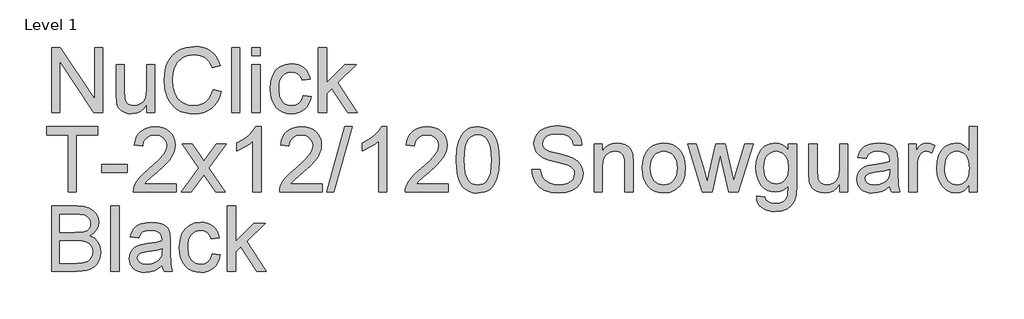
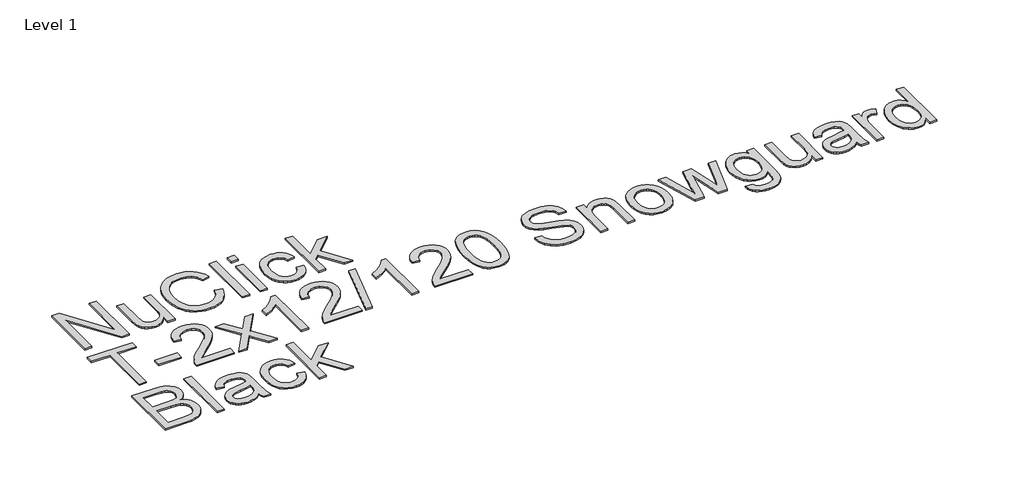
# One storey, part 11 of 13: 1 proxy.
"""IFC4 building model written with IfcOpenShell, lengths in millimetres."""

from ifc_helpers import new_model, si_unit, frame, origin, place, context, project, spatial, polyline, outline, extrude, element, save

model = new_model("IFC4")

# Units and contexts
model_context = context("Model", 3, world=origin())
ifc_project = project(units=[si_unit("LENGTHUNIT", "METRE", prefix="MILLI")], contexts=[model_context])

# Site, building, storey
site = spatial("IfcSite", under=ifc_project)
building = spatial("IfcBuilding", under=site)
storey = spatial("IfcBuildingStorey", under=building, Name="Level 1", Elevation=4000.0)

# Proxy
placement = place(None, origin())
element("IfcBuildingElementProxy", 1, Name="Elysium 400mm Arial", ObjectType="Elysium 400mm Arial", at=placement, inside=storey, context=model_context, shape_type="SweptSolid", body=[
    extrude(outline(polyline([(56107.147161, -9059.2083157), (56107.147161, -8657.3830752), (56160.9069832, -8657.3830752), (56370.8449751, -8975.7236283), (56370.8449751, -8657.3830752), (56421.0731302, -8657.3830752), (56421.0731302, -9059.2083157), (56367.313308, -9059.2083157), (56157.3753161, -8740.7696607), (56157.3753161, -9059.2083157), (56107.147161, -9059.2083157)])), frame((0.0, 0.0, 4000.0), z_axis=(0.0, 0.0, 1.0), x_axis=(1.0, 0.0, 0.0)), (0.0, 0.0, 1.0), 10.0),
    extrude(outline(polyline([(56691.0494637, -9059.2083157), (56691.0494637, -9008.4896513), (56672.8760932, -9033.4259193), (56651.7106157, -9051.2375392), (56627.5530314, -9061.9245111), (56600.4033401, -9065.4868351), (56575.9391875, -9062.9852376), (56553.167292, -9055.4804449), (56534.0619537, -9044.1987303), (56520.5974726, -9030.3663673), (56511.5353128, -9013.5664229), (56505.6369382, -8993.3819641), (56502.6938822, -8946.6854762), (56502.6938822, -8764.1179047), (56552.9220373, -8764.1179047), (56552.9220373, -8923.0429266), (56555.9631951, -8974.2521003), (56563.2840468, -8991.3340876), (56575.8288229, -9004.3203221), (56592.7636574, -9012.5240906), (56613.2546845, -9015.2586801), (56634.922934, -9012.4627769), (56655.1932319, -9004.0750674), (56671.9073373, -8990.8681038), (56682.9070089, -8973.6144382), (56689.01385, -8949.9841514), (56691.0494637, -8917.647324), (56691.0494637, -8764.1179047), (56741.2776188, -8764.1179047), (56741.2776188, -9059.2083157), (56691.0494637, -9059.2083157)])), frame((0.0, 0.0, 4000.0), z_axis=(0.0, 0.0, 1.0), x_axis=(1.0, 0.0, 0.0)), (0.0, 0.0, 1.0), 10.0),
    extrude(outline(polyline([(57099.1532237, -8916.3719998), (57149.3813788, -8929.321446), (57139.4424336, -8960.5576931), (57126.2048131, -8987.8514714), (57109.6685174, -9011.2027811), (57089.8335465, -9030.611622), (57067.1474901, -9045.8695277), (57042.0579381, -9056.7680318), (57014.5648903, -9063.3071343), (56984.6683468, -9065.4868351), (56954.039105, -9063.8374975), (56926.4081015, -9058.8894847), (56901.7753363, -9050.6427966), (56880.1408093, -9039.0974333), (56861.2071492, -9024.4250731), (56844.6769849, -9006.7973942), (56830.5503163, -8986.2143965), (56818.8271434, -8962.6760802), (56803.0450058, -8910.8047189), (56797.7842933, -8855.2545376), (56803.7317189, -8796.6631985), (56811.1660009, -8770.3657672), (56821.5739956, -8746.0671615), (56834.7227113, -8724.1689857), (56850.3791559, -8705.0728445), (56868.5433294, -8688.7787378), (56889.2152318, -8675.2866656), (56911.6928217, -8664.7069925), (56935.2740576, -8657.1500832), (56985.7474673, -8651.1045558), (57014.4759855, -8653.0604617), (57040.819402, -8658.9281795), (57064.777717, -8668.7077092), (57086.3509303, -8682.3990508), (57105.1834228, -8699.6404537), (57120.9195751, -8720.0701671), (57133.5593873, -8743.6881912), (57143.1028594, -8770.4945259), (57092.8747043, -8782.4629535), (57075.4616232, -8745.8341695), (57051.6719209, -8720.7078293), (57021.2112917, -8706.1764904), (56983.78543, -8701.3327108), (56940.6451347, -8706.703788), (56921.9628608, -8713.4176344), (56905.2058359, -8722.8170194), (56878.313662, -8747.9801478), (56860.8147418, -8780.5009162), (56851.2130217, -8817.2645903), (56848.0124484, -8855.1564358), (56851.8016329, -8901.5586181), (56863.1691866, -8941.682281), (56882.544305, -8973.9945829), (56910.3561838, -8996.9626822), (56943.6985553, -9010.6846806), (56979.6651517, -9015.2586801), (57001.5020138, -9013.7013129), (57021.5914364, -9009.0292116), (57039.9334196, -9001.242376), (57056.5279632, -8990.3408063), (57070.9826599, -8976.3735532), (57082.9051023, -8959.3896677), (57092.2952902, -8939.3891499), (57099.1532237, -8916.3719998)])), frame((0.0, 0.0, 4000.0), z_axis=(0.0, 0.0, 1.0), x_axis=(1.0, 0.0, 0.0)), (0.0, 0.0, 1.0), 10.0),
    extrude(outline(polyline([(57212.1665726, -9059.2083157), (57212.1665726, -8657.3830752), (57262.3947277, -8657.3830752), (57262.3947277, -9059.2083157), (57212.1665726, -9059.2083157)])), frame((0.0, 0.0, 4000.0), z_axis=(0.0, 0.0, 1.0), x_axis=(1.0, 0.0, 0.0)), (0.0, 0.0, 1.0), 10.0),
    extrude(outline(polyline([(57337.7369603, -8707.6112302), (57337.7369603, -8657.3830752), (57387.9651154, -8657.3830752), (57387.9651154, -8707.6112302), (57337.7369603, -8707.6112302)])), frame((0.0, 0.0, 4000.0), z_axis=(0.0, 0.0, 1.0), x_axis=(1.0, 0.0, 0.0)), (0.0, 0.0, 1.0), 10.0),
    extrude(outline(polyline([(57337.7369603, -9059.2083157), (57337.7369603, -8764.1179047), (57387.9651154, -8764.1179047), (57387.9651154, -9059.2083157), (57337.7369603, -9059.2083157)])), frame((0.0, 0.0, 4000.0), z_axis=(0.0, 0.0, 1.0), x_axis=(1.0, 0.0, 0.0)), (0.0, 0.0, 1.0), 10.0),
    extrude(outline(polyline([(57651.6629296, -8952.4734862), (57701.8910846, -8958.7520056), (57696.428037, -8982.4528031), (57687.8870433, -9003.4251425), (57676.2681037, -9021.6690238), (57661.571218, -9037.184447), (57644.4156542, -9049.5667418), (57625.4206806, -9058.4112381), (57604.5862969, -9063.7179359), (57581.9125033, -9065.4868351), (57553.7419395, -9063.0189601), (57528.4837748, -9055.6153349), (57506.1380093, -9043.2759597), (57486.7046429, -9026.0008343), (57470.9746219, -9004.1149213), (57459.7388927, -8977.943183), (57452.9974551, -8947.4856195), (57450.7503093, -8912.7422307), (57454.5885447, -8868.0445683), (57466.1032512, -8829.3065942), (57485.4783696, -8798.0243619), (57512.897841, -8775.6939248), (57545.7006522, -8762.3030202), (57581.2257902, -8757.8393853), (57603.5102421, -8759.3722269), (57623.6671097, -8763.9707519), (57641.6963932, -8771.6349601), (57657.5980924, -8782.3648516), (57671.1024273, -8795.9151718), (57681.9396178, -8812.0406659), (57690.1096637, -8830.741334), (57695.6125652, -8852.0171761), (57645.3844102, -8858.2956955), (57636.2731994, -8836.3821913), (57622.0852171, -8820.6736301), (57603.6052782, -8811.2190628), (57581.6181977, -8808.0675404), (57564.5515388, -8809.6187761), (57549.158743, -8814.2724834), (57535.4398102, -8822.0286621), (57523.3947406, -8832.8873123), (57513.5876197, -8847.0998201), (57506.5825334, -8864.9175714), (57502.3794816, -8886.3405662), (57500.9784643, -8911.3688046), (57506.4599061, -8958.4454373), (57513.3117082, -8976.3827502), (57522.9042312, -8990.5860609), (57534.7101776, -9001.3803318), (57548.2022498, -9009.0905253), (57563.3804478, -9013.7166414), (57580.2447716, -9015.2586801), (57606.2540286, -9011.4081818), (57627.5789216, -8999.8566872), (57643.0912791, -8980.3098905), (57651.6629296, -8952.4734862)])), frame((0.0, 0.0, 4000.0), z_axis=(0.0, 0.0, 1.0), x_axis=(1.0, 0.0, 0.0)), (0.0, 0.0, 1.0), 10.0),
    extrude(outline(polyline([(57745.8407203, -9059.2083157), (57745.8407203, -8657.3830752), (57796.0688754, -8657.3830752), (57796.0688754, -8873.3052809), (57908.6898168, -8764.1179047), (57978.1459375, -8764.1179047), (57864.15157, -8874.678707), (57984.4244569, -9059.2083157), (57925.7595414, -9059.2083157), (57828.1481854, -8909.602971), (57796.0688754, -8940.7012624), (57796.0688754, -9059.2083157), (57745.8407203, -9059.2083157)])), frame((0.0, 0.0, 4000.0), z_axis=(0.0, 0.0, 1.0), x_axis=(1.0, 0.0, 0.0)), (0.0, 0.0, 1.0), 10.0),
    extrude(outline(polyline([(56207.6034712, -9547.1075871), (56207.6034712, -9195.5105016), (56075.7545641, -9195.5105016), (56075.7545641, -9145.2823465), (56389.6805333, -9145.2823465), (56389.6805333, -9195.5105016), (56257.8316262, -9195.5105016), (56257.8316262, -9547.1075871), (56207.6034712, -9547.1075871)])), frame((0.0, 0.0, 4000.0), z_axis=(0.0, 0.0, 1.0), x_axis=(1.0, 0.0, 0.0)), (0.0, 0.0, 1.0), 10.0),
    extrude(outline(polyline([(56414.7946108, -9427.8157188), (56414.7946108, -9377.5875638), (56571.7575954, -9377.5875638), (56571.7575954, -9427.8157188), (56414.7946108, -9427.8157188)])), frame((0.0, 0.0, 4000.0), z_axis=(0.0, 0.0, 1.0), x_axis=(1.0, 0.0, 0.0)), (0.0, 0.0, 1.0), 10.0),
    extrude(outline(polyline([(56873.1265259, -9496.8794321), (56873.1265259, -9547.1075871), (56609.4287117, -9547.1075871), (56610.5323577, -9529.4247259), (56614.8243143, -9512.4776287), (56627.2096748, -9485.4137765), (56645.3339945, -9459.1592648), (56671.551718, -9431.6784798), (56708.2172902, -9400.9358077), (56762.4185708, -9352.7923173), (56794.9393392, -9317.2549165), (56811.1997234, -9288.4129681), (56816.6198514, -9260.3558346), (56811.5062917, -9235.2049689), (56796.1656125, -9214.2970088), (56772.5843766, -9200.2071284), (56742.7491468, -9195.5105016), (56711.4178635, -9200.0967638), (56687.0763382, -9213.8555504), (56671.367777, -9235.7077409), (56665.9353862, -9264.5742148), (56615.7072311, -9258.2956955), (56620.0267789, -9232.3661462), (56627.8841252, -9209.7107466), (56639.27927, -9190.3294968), (56654.2122133, -9174.2223968), (56672.3395986, -9161.5611248), (56693.3180694, -9152.5173591), (56717.1476256, -9147.0910997), (56743.8282673, -9145.2823465), (56770.7480323, -9147.2934348), (56794.7063473, -9153.3266995), (56815.7032121, -9163.3821407), (56833.7386269, -9177.4597584), (56848.2239805, -9194.5172202), (56858.5706616, -9213.5121939), (56864.7786703, -9234.4446794), (56866.8480065, -9257.3146768), (56864.6161891, -9281.3373711), (56857.9207368, -9304.9431324), (56846.0381483, -9328.953564), (56828.2449225, -9354.1902689), (56799.8812207, -9384.3198043), (56756.2872042, -9423.0087274), (56698.5052055, -9471.3238961), (56675.8436746, -9496.8794321), (56873.1265259, -9496.8794321)])), frame((0.0, 0.0, 4000.0), z_axis=(0.0, 0.0, 1.0), x_axis=(1.0, 0.0, 0.0)), (0.0, 0.0, 1.0), 10.0),
    extrude(outline(polyline([(56904.5191228, -9547.1075871), (57011.8425635, -9398.7775667), (56910.7976422, -9252.0171761), (56971.2283913, -9252.0171761), (57019.9850184, -9322.6505191), (57042.7446511, -9356.0051534), (57062.4631261, -9328.7328348), (57117.9887819, -9252.0171761), (57178.419531, -9252.0171761), (57072.2733126, -9398.7775667), (57174.4954563, -9547.1075871), (57114.0647073, -9547.1075871), (57052.5548377, -9457.9329915), (57041.2731232, -9441.6480818), (56964.9498719, -9547.1075871), (56904.5191228, -9547.1075871)])), frame((0.0, 0.0, 4000.0), z_axis=(0.0, 0.0, 1.0), x_axis=(1.0, 0.0, 0.0)), (0.0, 0.0, 1.0), 10.0),
    extrude(outline(polyline([(57394.2436348, -9547.1075871), (57344.0154797, -9547.1075871), (57344.0154797, -9233.9664328), (57323.046206, -9250.9257928), (57296.436075, -9267.8606273), (57243.5591696, -9293.2199595), (57243.5591696, -9245.7386567), (57283.0083822, -9224.2788736), (57317.1846195, -9198.7478632), (57344.1258443, -9171.5981719), (57361.8700192, -9145.2823465), (57394.2436348, -9145.2823465), (57394.2436348, -9547.1075871)])), frame((0.0, 0.0, 4000.0), z_axis=(0.0, 0.0, 1.0), x_axis=(1.0, 0.0, 0.0)), (0.0, 0.0, 1.0), 10.0),
    extrude(outline(polyline([(57770.9547979, -9496.8794321), (57770.9547979, -9547.1075871), (57507.2569837, -9547.1075871), (57508.3606297, -9529.4247259), (57512.6525863, -9512.4776287), (57525.0379468, -9485.4137765), (57543.1622664, -9459.1592648), (57569.37999, -9431.6784798), (57606.0455621, -9400.9358077), (57660.2468428, -9352.7923173), (57692.7676111, -9317.2549165), (57709.0279953, -9288.4129681), (57714.4481234, -9260.3558346), (57709.3345637, -9235.2049689), (57693.9938845, -9214.2970088), (57670.4126486, -9200.2071284), (57640.5774188, -9195.5105016), (57609.2461355, -9200.0967638), (57584.9046102, -9213.8555504), (57569.196049, -9235.7077409), (57563.7636582, -9264.5742148), (57513.5355031, -9258.2956955), (57517.8550509, -9232.3661462), (57525.7123971, -9209.7107466), (57537.1075419, -9190.3294968), (57552.0404853, -9174.2223968), (57570.1678706, -9161.5611248), (57591.1463413, -9152.5173591), (57614.9758976, -9147.0910997), (57641.6565393, -9145.2823465), (57668.5763043, -9147.2934348), (57692.5346192, -9153.3266995), (57713.5314841, -9163.3821407), (57731.5668989, -9177.4597584), (57746.0522525, -9194.5172202), (57756.3989336, -9213.5121939), (57762.6069422, -9234.4446794), (57764.6762785, -9257.3146768), (57762.444461, -9281.3373711), (57755.7490087, -9304.9431324), (57743.8664203, -9328.953564), (57726.0731944, -9354.1902689), (57697.7094926, -9384.3198043), (57654.1154762, -9423.0087274), (57596.3334775, -9471.3238961), (57573.6719466, -9496.8794321), (57770.9547979, -9496.8794321)])), frame((0.0, 0.0, 4000.0), z_axis=(0.0, 0.0, 1.0), x_axis=(1.0, 0.0, 0.0)), (0.0, 0.0, 1.0), 10.0),
    extrude(outline(polyline([(57796.0688754, -9547.1075871), (57909.0822243, -9145.2823465), (57954.4052861, -9145.2823465), (57841.3919372, -9547.1075871), (57796.0688754, -9547.1075871)])), frame((0.0, 0.0, 4000.0), z_axis=(0.0, 0.0, 1.0), x_axis=(1.0, 0.0, 0.0)), (0.0, 0.0, 1.0), 10.0),
    extrude(outline(polyline([(58166.5015191, -9547.1075871), (58116.273364, -9547.1075871), (58116.273364, -9233.9664328), (58095.3040903, -9250.9257928), (58068.6939593, -9267.8606273), (58015.8170538, -9293.2199595), (58015.8170538, -9245.7386567), (58055.2662665, -9224.2788736), (58089.4425038, -9198.7478632), (58116.3837286, -9171.5981719), (58134.1279035, -9145.2823465), (58166.5015191, -9145.2823465), (58166.5015191, -9547.1075871)])), frame((0.0, 0.0, 4000.0), z_axis=(0.0, 0.0, 1.0), x_axis=(1.0, 0.0, 0.0)), (0.0, 0.0, 1.0), 10.0),
    extrude(outline(polyline([(58543.2126821, -9496.8794321), (58543.2126821, -9547.1075871), (58279.514868, -9547.1075871), (58280.618514, -9529.4247259), (58284.9104706, -9512.4776287), (58297.2958311, -9485.4137765), (58315.4201507, -9459.1592648), (58341.6378742, -9431.6784798), (58378.3034464, -9400.9358077), (58432.504727, -9352.7923173), (58465.0254954, -9317.2549165), (58481.2858796, -9288.4129681), (58486.7060077, -9260.3558346), (58481.5924479, -9235.2049689), (58466.2517687, -9214.2970088), (58442.6705328, -9200.2071284), (58412.835303, -9195.5105016), (58381.5040198, -9200.0967638), (58357.1624944, -9213.8555504), (58341.4539332, -9235.7077409), (58336.0215424, -9264.5742148), (58285.7933874, -9258.2956955), (58290.1129351, -9232.3661462), (58297.9702814, -9209.7107466), (58309.3654262, -9190.3294968), (58324.2983695, -9174.2223968), (58342.4257548, -9161.5611248), (58363.4042256, -9152.5173591), (58387.2337819, -9147.0910997), (58413.9144236, -9145.2823465), (58440.8341886, -9147.2934348), (58464.7925035, -9153.3266995), (58485.7893684, -9163.3821407), (58503.8247832, -9177.4597584), (58518.3101367, -9194.5172202), (58528.6568179, -9213.5121939), (58534.8648265, -9234.4446794), (58536.9341627, -9257.3146768), (58534.7023453, -9281.3373711), (58528.006893, -9304.9431324), (58516.1243046, -9328.953564), (58498.3310787, -9354.1902689), (58469.9673769, -9384.3198043), (58426.3733605, -9423.0087274), (58368.5913618, -9471.3238961), (58345.9298308, -9496.8794321), (58543.2126821, -9496.8794321)])), frame((0.0, 0.0, 4000.0), z_axis=(0.0, 0.0, 1.0), x_axis=(1.0, 0.0, 0.0)), (0.0, 0.0, 1.0), 10.0),
    extrude(outline(polyline([(58593.4408372, -9349.4323284), (58597.1319199, -9285.1142929), (58608.2051679, -9233.81928), (58626.5502168, -9194.7624749), (58638.4082797, -9179.5290946), (58652.0567018, -9167.1590625), (58667.5414681, -9157.5879993), (58684.9085639, -9150.7515255), (58725.2897443, -9145.2823465), (58756.2408828, -9148.5197081), (58783.9546598, -9158.2317928), (58807.1312255, -9174.0384558), (58824.4707302, -9195.5595525), (58837.5673292, -9222.6111419), (58848.0151779, -9255.009283), (58854.857783, -9296.1507528), (58857.1386513, -9349.4323284), (58853.4843569, -9413.3824819), (58842.5214734, -9464.5548674), (58824.2867892, -9503.6484608), (58812.4563173, -9518.9278263), (58798.8170924, -9531.3622377), (58783.313932, -9540.9976803), (58765.8916538, -9547.8801393), (58725.2897443, -9553.3861065), (58697.6250182, -9550.9948735), (58673.0995519, -9543.8211746), (58651.7133452, -9531.8650098), (58633.4663983, -9515.126379), (58615.9552153, -9484.8680849), (58603.4472275, -9447.1663118), (58595.9424348, -9402.0210596), (58593.4408372, -9349.4323284)]), holes=[polyline([(58643.6689923, -9349.3342265), (58645.1405203, -9392.9987537), (58649.5551042, -9428.3430164), (58656.9127441, -9455.3670146), (58667.21344, -9474.0707484), (58679.6723769, -9486.7963997), (58693.5047399, -9495.8861507), (58708.710529, -9501.3400012), (58725.2897443, -9503.1579514), (58741.8689595, -9501.3338699), (58757.0747487, -9495.8616252), (58770.9071117, -9486.7412174), (58783.3660486, -9473.9726465), (58793.6667444, -9455.2382559), (58801.0243843, -9428.220389), (58805.4389683, -9392.9190459), (58806.9104963, -9349.3342265), (58805.4880192, -9306.825462), (58801.2205881, -9272.103533), (58794.1082028, -9245.1684396), (58784.1508635, -9226.0201817), (58771.9003931, -9212.6721967), (58757.9086145, -9203.1379216), (58742.1755279, -9197.4173566), (58724.7011331, -9195.5105016), (58708.207757, -9197.1904961), (58693.2594852, -9202.2304794), (58679.8563179, -9210.6304516), (58667.9982549, -9222.3904127), (58657.3542025, -9243.2370591), (58649.7513079, -9271.3432435), (58645.1895712, -9306.708966), (58643.6689923, -9349.3342265)])]), frame((0.0, 0.0, 4000.0), z_axis=(0.0, 0.0, 1.0), x_axis=(1.0, 0.0, 0.0)), (0.0, 0.0, 1.0), 10.0),
    extrude(outline(polyline([(59058.0512716, -9408.9801607), (59108.2794267, -9408.9801607), (59114.0429113, -9436.8533532), (59124.4662345, -9459.2573667), (59140.7266187, -9477.0383298), (59164.0012863, -9491.0423711), (59192.4508272, -9500.1290563), (59224.2358316, -9503.1579514), (59252.2193887, -9500.8648203), (59276.7203296, -9493.985427), (59296.5736946, -9483.09612), (59310.6145241, -9468.7732476), (59318.9654454, -9452.3289224), (59321.7490858, -9435.0752569), (59319.6644211, -9418.2630497), (59313.4104272, -9403.7317109), (59300.7062357, -9391.3340876), (59279.2709781, -9380.9230272), (59206.1360374, -9361.7441125), (59158.1274371, -9349.0521837), (59127.4092905, -9336.9733915), (59102.4055775, -9320.0753452), (59084.6859281, -9299.5965808), (59074.1277148, -9275.9785567), (59070.6083104, -9249.6627313), (59074.9615807, -9220.2444344), (59088.0213915, -9192.8127003), (59109.4443864, -9169.5625582), (59138.8872087, -9152.6890374), (59174.2284057, -9142.4251297), (59213.3465245, -9139.0038271), (59255.7265304, -9142.5845452), (59292.8090355, -9153.3266995), (59323.2696647, -9171.0095607), (59345.7840428, -9195.4123997), (59360.0333388, -9225.0146376), (59365.6987215, -9258.2956955), (59315.4705664, -9258.2956955), (59306.2489911, -9228.3255756), (59297.885807, -9216.4675126), (59287.0210254, -9206.6941143), (59256.9773292, -9193.5975152), (59215.3085619, -9189.2319822), (59172.6587759, -9193.5484643), (59156.3554721, -9198.9440669), (59143.3998945, -9206.4979105), (59126.4773227, -9225.5541979), (59120.8364655, -9248.1912033), (59124.8341165, -9267.4927453), (59136.8270695, -9283.0173655), (59165.1785086, -9296.8987795), (59218.840229, -9311.074499), (59274.218732, -9324.53898), (59307.720519, -9336.2866784), (59336.354001, -9354.5090999), (59356.3299933, -9376.9989526), (59368.065429, -9403.5109817), (59371.9772409, -9433.7999326), (59367.4768178, -9464.7633339), (59353.9755486, -9493.8873252), (59332.0252562, -9518.9523518), (59302.1777636, -9537.738859), (59266.2847436, -9549.4742946), (59226.1978689, -9553.3861065), (59176.9875207, -9549.1677263), (59136.483713, -9536.5125857), (59104.220462, -9515.3716337), (59079.7317839, -9485.6958194), (59064.01096, -9449.545282), (59058.0512716, -9408.9801607)])), frame((0.0, 0.0, 4000.0), z_axis=(0.0, 0.0, 1.0), x_axis=(1.0, 0.0, 0.0)), (0.0, 0.0, 1.0), 10.0),
    extrude(outline(polyline([(59441.0409541, -9547.1075871), (59441.0409541, -9252.0171761), (59491.2691092, -9252.0171761), (59491.2691092, -9293.2199595), (59508.7189785, -9272.4468895), (59529.6759895, -9257.6089824), (59554.1401421, -9248.7062381), (59582.1114365, -9245.7386567), (59606.8698948, -9248.1298897), (59629.5436884, -9255.3035886), (59648.452823, -9266.3645739), (59661.917304, -9280.4176661), (59671.0530402, -9297.426077), (59676.9759403, -9317.3530184), (59679.6246907, -9365.9134418), (59679.6246907, -9547.1075871), (59629.3965356, -9547.1075871), (59629.3965356, -9372.6824705), (59627.9495331, -9346.7100016), (59623.6085256, -9328.2423255), (59615.6009608, -9315.0108364), (59603.1542866, -9304.7469287), (59587.2004708, -9298.161841), (59568.671481, -9295.9668118), (59539.2531841, -9300.8964305), (59514.1758947, -9315.6852867), (59504.154176, -9327.7579475), (59496.9958056, -9344.257455), (59492.7007833, -9365.1838091), (59491.2691092, -9390.53701), (59491.2691092, -9547.1075871), (59441.0409541, -9547.1075871)])), frame((0.0, 0.0, 4000.0), z_axis=(0.0, 0.0, 1.0), x_axis=(1.0, 0.0, 0.0)), (0.0, 0.0, 1.0), 10.0),
    extrude(outline(polyline([(59736.1313652, -9399.5623816), (59738.8475606, -9361.3455737), (59746.9961467, -9328.4140037), (59760.5771237, -9300.7676718), (59779.5904915, -9278.4065779), (59798.732618, -9264.1143623), (59819.8613073, -9253.905637), (59842.9765593, -9247.7804018), (59868.0783741, -9245.7386567), (59895.7890854, -9248.2249258), (59920.8449149, -9255.6837333), (59943.2458628, -9268.115079), (59962.9919288, -9285.5189631), (59979.1082259, -9307.3067743), (59990.6198667, -9332.8899013), (59997.5268511, -9362.2683443), (59999.8291793, -9395.4421033), (59995.7579519, -9446.1852931), (59983.5442696, -9484.8129026), (59963.5437518, -9513.7406902), (59936.1120177, -9535.3844142), (59903.5299357, -9548.8856834), (59868.0783741, -9553.3861065), (59839.9629926, -9550.9090344), (59814.6741711, -9543.4778181), (59792.2119096, -9531.0924576), (59772.5762081, -9513.7529529), (59756.6315893, -9491.7536096), (59745.2425759, -9465.3887333), (59738.4091678, -9434.6583239), (59736.1313652, -9399.5623816)]), holes=[polyline([(59786.3595202, -9399.4642797), (59787.8126541, -9423.8272649), (59792.1720558, -9444.9222316), (59799.4377252, -9462.74918), (59809.6096623, -9477.3081099), (59821.9827601, -9488.6174156), (59835.8519113, -9496.6954911), (59851.217116, -9501.5423363), (59868.0783741, -9503.1579514), (59884.8537931, -9501.5331393), (59900.1576841, -9496.6587029), (59913.9900471, -9488.5346421), (59926.3508821, -9477.1609571), (59936.5228193, -9462.45794), (59943.7884887, -9444.3458831), (59948.1478903, -9422.8247864), (59949.6010242, -9397.8946499), (59948.1386933, -9374.3042169), (59943.7517005, -9353.7610732), (59936.4400458, -9336.2652186), (59926.2037293, -9321.8166533), (59913.796909, -9310.5073476), (59899.9737431, -9302.4292721), (59884.7342314, -9297.5824269), (59868.0783741, -9295.9668118), (59851.217116, -9297.5762955), (59835.8519113, -9302.4047467), (59821.9827601, -9310.4521653), (59809.6096623, -9321.7185514), (59799.4377252, -9336.2345618), (59792.1720558, -9354.0308533), (59787.8126541, -9375.107426), (59786.3595202, -9399.4642797)])]), frame((0.0, 0.0, 4000.0), z_axis=(0.0, 0.0, 1.0), x_axis=(1.0, 0.0, 0.0)), (0.0, 0.0, 1.0), 10.0),
    extrude(outline(polyline([(60105.2886846, -9547.1075871), (60015.5254778, -9252.0171761), (60067.7156701, -9252.0171761), (60118.6305383, -9424.1859498), (60133.8363274, -9485.6958194), (60146.2952643, -9426.4422927), (60186.8113347, -9252.0171761), (60246.6534726, -9252.0171761), (60286.9733393, -9425.9517834), (60298.0588501, -9479.6135037), (60313.9513522, -9423.0087274), (60364.9643222, -9252.0171761), (60417.3507184, -9252.0171761), (60326.9007985, -9547.1075871), (60266.1757438, -9547.1075871), (60227.6217107, -9374.0558966), (60216.4380981, -9320.0998706), (60166.7004523, -9547.1075871), (60105.2886846, -9547.1075871)])), frame((0.0, 0.0, 4000.0), z_axis=(0.0, 0.0, 1.0), x_axis=(1.0, 0.0, 0.0)), (0.0, 0.0, 1.0), 10.0),
    extrude(outline(polyline([(60439.3255362, -9572.2216647), (60489.5536913, -9578.5001841), (60495.0964467, -9594.1964825), (60505.8386009, -9604.9876877), (60526.9550275, -9613.3753972), (60554.595228, -9616.1713004), (60584.0748386, -9613.0075152), (60606.0006055, -9603.5161597), (60621.2063946, -9588.3103706), (60630.5260718, -9568.0032845), (60633.9596371, -9509.4364708), (60617.2455318, -9525.9175842), (60598.5939146, -9537.6898081), (60578.0047857, -9544.7531424), (60555.4781448, -9547.1075871), (60527.9391118, -9544.3668663), (60503.6926226, -9536.1447037), (60482.7386773, -9522.4410994), (60465.0772759, -9503.2560533), (60451.0640375, -9480.2389031), (60441.0545816, -9455.0389865), (60435.048908, -9427.6563033), (60433.0470168, -9398.0908536), (60436.6399976, -9357.537995), (60447.4189401, -9320.2470234), (60465.0036995, -9288.6459601), (60489.014131, -9265.162826), (60518.6286316, -9250.594699), (60553.0255982, -9245.7386567), (60576.5148636, -9248.4855089), (60597.8336252, -9256.7260656), (60616.981883, -9270.4603268), (60633.9596371, -9289.6882924), (60633.9596371, -9252.0171761), (60684.1877922, -9252.0171761), (60684.1877922, -9506.7877205), (60680.7542269, -9565.6120515), (60670.453531, -9604.3500256), (60652.7093561, -9630.0404516), (60626.9453537, -9649.7221383), (60593.7256096, -9662.2301262), (60553.6142094, -9666.3994554), (60529.0059696, -9664.9309931), (60506.8809333, -9660.5256062), (60487.2391004, -9653.1832948), (60470.080471, -9642.9040587), (60456.2205168, -9629.6756353), (60446.4747096, -9613.4857618), (60440.8430494, -9594.3344383), (60439.3255362, -9572.2216647)]), holes=[polyline([(60483.2751719, -9394.6572883), (60488.6339863, -9440.7283769), (60495.3325043, -9458.3652528), (60504.7104295, -9472.4030166), (60516.1117056, -9483.1114484), (60528.8802766, -9490.7603282), (60543.0161422, -9495.3496561), (60558.5193026, -9496.8794321), (60573.8691789, -9495.3588531), (60587.9375995, -9490.7971164), (60600.7245645, -9483.1942218), (60612.2300739, -9472.5501694), (60621.7367578, -9458.6503614), (60628.5272463, -9441.2801999), (60633.9596371, -9396.1288163), (60628.3678308, -9352.5838508), (60621.3780729, -9335.3823019), (60611.5924118, -9321.2280421), (60599.8385821, -9310.1762538), (60586.9443181, -9302.2821193), (60572.90962, -9297.5456387), (60557.7344877, -9295.9668118), (60542.8138071, -9297.5211132), (60529.0519548, -9302.1840175), (60505.0047351, -9320.8356346), (60495.4980512, -9334.7752966), (60488.7075627, -9351.7254595), (60483.2751719, -9394.6572883)])]), frame((0.0, 0.0, 4000.0), z_axis=(0.0, 0.0, 1.0), x_axis=(1.0, 0.0, 0.0)), (0.0, 0.0, 1.0), 10.0),
    extrude(outline(polyline([(60947.8856063, -9547.1075871), (60947.8856063, -9496.3889227), (60929.7122358, -9521.3251906), (60908.5467583, -9539.1368106), (60884.389174, -9549.8237825), (60857.2394827, -9553.3861065), (60832.77533, -9550.8845089), (60810.0034345, -9543.3797162), (60790.8980963, -9532.0980017), (60777.4336152, -9518.2656387), (60768.3714554, -9501.4656943), (60762.4730808, -9481.2812355), (60759.5300248, -9434.5847475), (60759.5300248, -9252.0171761), (60809.7581799, -9252.0171761), (60809.7581799, -9410.942198), (60812.7993377, -9462.1513717), (60820.1201894, -9479.233359), (60832.6649654, -9492.2195935), (60849.5998, -9500.4233619), (60870.0908271, -9503.1579514), (60891.7590766, -9500.3620483), (60912.0293745, -9491.9743388), (60928.7434799, -9478.7673752), (60939.7431515, -9461.5137096), (60945.8499926, -9437.8834228), (60947.8856063, -9405.5465954), (60947.8856063, -9252.0171761), (60998.1137614, -9252.0171761), (60998.1137614, -9547.1075871), (60947.8856063, -9547.1075871)])), frame((0.0, 0.0, 4000.0), z_axis=(0.0, 0.0, 1.0), x_axis=(1.0, 0.0, 0.0)), (0.0, 0.0, 1.0), 10.0),
    extrude(outline(polyline([(61255.5330562, -9509.4364708), (61231.5348873, -9530.0133371), (61206.82548, -9543.4778181), (61180.8407484, -9550.9090344), (61153.0166068, -9553.3861065), (61130.6524472, -9551.8961844), (61111.0412712, -9547.4264182), (61094.1830788, -9539.9768078), (61080.0778699, -9529.5473532), (61068.9402425, -9516.8002421), (61060.9847944, -9502.397662), (61056.2115255, -9486.3396129), (61054.6204359, -9468.6260948), (61057.0239316, -9447.8039739), (61064.2344187, -9428.8948393), (61075.3567177, -9412.7080316), (61089.495649, -9400.0528909), (61106.1116525, -9390.4879591), (61124.6651678, -9383.5717775), (61168.1242941, -9376.0179339), (61219.4806206, -9368.0716828), (61255.2387506, -9358.7520056), (61255.5330562, -9347.5683929), (61252.0749654, -9325.1521167), (61241.7006931, -9310.4858878), (61218.499602, -9299.5965808), (61186.1750373, -9295.9668118), (61156.2539684, -9298.3825702), (61135.3582711, -9305.6298455), (61121.1089751, -9319.0330129), (61111.1271103, -9339.9164474), (61060.8989553, -9333.6379281), (61069.6177585, -9306.1694058), (61082.6285184, -9284.5869954), (61101.1452455, -9268.0813565), (61126.3819504, -9255.8431488), (61157.2472498, -9248.2647797), (61192.6497605, -9245.7386567), (61226.6052686, -9247.9704741), (61253.5219679, -9254.6659264), (61273.8167913, -9264.7336304), (61287.9066717, -9277.0822027), (61297.2508744, -9292.3493055), (61303.3086646, -9311.1726009), (61305.7612112, -9355.1222366), (61305.7612112, -9417.6131248), (61308.3118597, -9504.8747341), (61318.31825, -9547.1075871), (61268.0900949, -9547.1075871), (61260.045742, -9529.6454551), (61255.5330562, -9509.4364708)]), holes=[polyline([(61255.5330562, -9408.9801607), (61221.7860145, -9417.3433447), (61174.5009154, -9424.3821535), (61131.2870437, -9432.5246084), (61120.0421173, -9438.0918892), (61111.7157215, -9445.7683602), (61106.5653736, -9454.9654101), (61104.8485909, -9465.0944277), (61108.5887246, -9480.0304367), (61119.8091254, -9492.2686444), (61138.2645388, -9500.4356247), (61163.7097102, -9503.1579514), (61190.6877232, -9500.1535818), (61214.5264764, -9491.1404729), (61233.8525439, -9477.8599329), (61247.2924995, -9462.0532698), (61253.2521878, -9445.7683602), (61255.2387506, -9423.2049312), (61255.5330562, -9408.9801607)])]), frame((0.0, 0.0, 4000.0), z_axis=(0.0, 0.0, 1.0), x_axis=(1.0, 0.0, 0.0)), (0.0, 0.0, 1.0), 10.0),
    extrude(outline(polyline([(61374.8249245, -9547.1075871), (61374.8249245, -9252.0171761), (61418.7745602, -9252.0171761), (61418.7745602, -9295.6725062), (61435.0104189, -9270.3622249), (61449.9709534, -9255.4507414), (61464.9805388, -9248.1666779), (61481.3635503, -9245.7386567), (61506.3795259, -9249.6136804), (61531.7879091, -9261.2387514), (61515.0124901, -9306.2675076), (61497.3541543, -9298.5419857), (61479.6958186, -9295.9668118), (61464.6984959, -9298.4438839), (61451.2953285, -9305.8751002), (61440.4673351, -9317.6963749), (61433.1955344, -9333.3436225), (61427.0886933, -9361.400756), (61425.0530795, -9392.008538), (61425.0530795, -9547.1075871), (61374.8249245, -9547.1075871)])), frame((0.0, 0.0, 4000.0), z_axis=(0.0, 0.0, 1.0), x_axis=(1.0, 0.0, 0.0)), (0.0, 0.0, 1.0), 10.0),
    extrude(outline(polyline([(61745.2575681, -9547.1075871), (61745.2575681, -9499.7243862), (61730.2295886, -9523.2013888), (61712.0255612, -9539.9706764), (61690.645486, -9550.032249), (61666.0893628, -9553.3861065), (61633.6176453, -9548.5300642), (61603.8927801, -9533.9619372), (61578.7296517, -9510.6995323), (61559.9431444, -9479.7606565), (61548.244497, -9442.3961086), (61544.3449478, -9399.8566872), (61547.9379287, -9357.8445633), (61558.7168711, -9319.9036669), (61576.6695125, -9288.1922389), (61601.78359, -9264.8685204), (61632.1583801, -9250.5211226), (61665.8931591, -9245.7386567), (61690.4676763, -9249.1599592), (61712.1972395, -9259.4238669), (61730.6158647, -9275.1569536), (61745.2575681, -9294.9857931), (61745.2575681, -9145.2823465), (61795.4857232, -9145.2823465), (61795.4857232, -9547.1075871), (61745.2575681, -9547.1075871)]), holes=[polyline([(61594.5731029, -9399.6604835), (61595.9894486, -9424.0173372), (61600.2384856, -9445.0939099), (61607.3202141, -9462.8902014), (61617.2346338, -9477.4062118), (61641.9317784, -9496.7200165), (61655.807061, -9501.5484677), (61670.7001505, -9503.1579514), (61685.6637506, -9501.6220441), (61699.4562597, -9497.0143221), (61723.528005, -9478.5834342), (61733.0346889, -9464.6744291), (61739.8251774, -9447.521931), (61745.2575681, -9403.4864562), (61739.7270755, -9355.3429658), (61732.8139597, -9336.8078446), (61723.1355975, -9321.9638061), (61711.4338844, -9310.5901211), (61698.4507156, -9302.4660603), (61684.1860913, -9297.5916239), (61668.6400113, -9295.9668118), (61653.4526163, -9297.5272446), (61639.5773337, -9302.2085429), (61627.0141635, -9310.0107069), (61615.7631058, -9320.9337365), (61606.4924796, -9335.216755), (61599.8706037, -9353.0988856), (61594.5731029, -9399.6604835)])]), frame((0.0, 0.0, 4000.0), z_axis=(0.0, 0.0, 1.0), x_axis=(1.0, 0.0, 0.0)), (0.0, 0.0, 1.0), 10.0),
    extrude(outline(polyline([(56107.147161, -10035.0068585), (56107.147161, -9633.1816179), (56260.4803766, -9633.1816179), (56302.651916, -9636.1369366), (56335.5773545, -9645.0028927), (56360.8140594, -9660.0002154), (56379.9193977, -9681.3496338), (56391.9491389, -9706.4637114), (56395.9590527, -9732.7550113), (56392.5868011, -9756.9493838), (56382.4700462, -9779.6967539), (56365.5352117, -9799.5991698), (56341.7087211, -9815.2586801), (56370.1705248, -9830.1211127), (56391.2011122, -9852.7335926), (56404.1873466, -9881.6000665), (56408.5160914, -9915.2244809), (56405.5607728, -9943.2448262), (56396.6948167, -9969.2295578), (56383.4633276, -9991.327003), (56367.4114099, -10007.685489), (56347.7542486, -10019.5312892), (56323.7070288, -10028.090677), (56294.4849357, -10033.2778131), (56259.3031542, -10035.0068585), (56107.147161, -10035.0068585)]), holes=[polyline([(56157.3753161, -9796.4231219), (56249.1005602, -9796.4231219), (56302.6641787, -9792.1066398), (56321.4138977, -9784.6631608), (56334.8906415, -9773.5163363), (56343.0208336, -9758.8378447), (56345.7308976, -9740.7993642), (56343.2047746, -9723.2881813), (56335.6264055, -9708.0333412), (56323.3391468, -9696.1262273), (56306.6863552, -9688.6582228), (56281.1308193, -9684.7218854), (56242.1353278, -9683.409773), (56157.3753161, -9683.409773), (56157.3753161, -9796.4231219)]), polyline([(56157.3753161, -9984.7787034), (56260.3822747, -9984.7787034), (56297.6609836, -9982.8166661), (56329.2007333, -9971.8783081), (56340.7767534, -9962.4482663), (56350.0964306, -9949.5601338), (56356.2400599, -9933.7902589), (56358.2879364, -9915.7149902), (56355.8844407, -9894.721191), (56348.6739536, -9876.6704478), (56336.0801266, -9862.5560419), (56317.5266113, -9853.3712548), (56291.2475741, -9848.3312714), (56255.4771815, -9846.651277), (56157.3753161, -9846.651277), (56157.3753161, -9984.7787034)])]), frame((0.0, 0.0, 4000.0), z_axis=(0.0, 0.0, 1.0), x_axis=(1.0, 0.0, 0.0)), (0.0, 0.0, 1.0), 10.0),
    extrude(outline(polyline([(56471.3012853, -10035.0068585), (56471.3012853, -9633.1816179), (56521.5294404, -9633.1816179), (56521.5294404, -10035.0068585), (56471.3012853, -10035.0068585)])), frame((0.0, 0.0, 4000.0), z_axis=(0.0, 0.0, 1.0), x_axis=(1.0, 0.0, 0.0)), (0.0, 0.0, 1.0), 10.0),
    extrude(outline(polyline([(56785.2272545, -9997.3357422), (56761.2290857, -10017.9126085), (56736.5196783, -10031.3770895), (56710.5349468, -10038.8083058), (56682.7108052, -10041.2853779), (56660.3466456, -10039.7954558), (56640.7354695, -10035.3256896), (56623.8772771, -10027.8760792), (56609.7720683, -10017.4466246), (56598.6344409, -10004.6995135), (56590.6789927, -9990.2969334), (56585.9057238, -9974.2388843), (56584.3146342, -9956.5253662), (56586.7181299, -9935.7032453), (56593.928617, -9916.7941107), (56605.050916, -9900.6073029), (56619.1898474, -9887.9521623), (56635.8058508, -9878.3872304), (56654.3593661, -9871.4710489), (56697.8184925, -9863.9172053), (56749.174819, -9855.9709542), (56784.9329489, -9846.651277), (56785.2272545, -9835.4676643), (56781.7691638, -9813.0513881), (56771.3948915, -9798.3851592), (56748.1938003, -9787.4958522), (56715.8692357, -9783.8660831), (56685.9481667, -9786.2818416), (56665.0524694, -9793.5291169), (56650.8031735, -9806.9322842), (56640.8213087, -9827.8157188), (56590.5931536, -9821.5371994), (56599.3119569, -9794.0686771), (56612.3227168, -9772.4862668), (56630.8394439, -9755.9806279), (56656.0761487, -9743.7424202), (56686.9414481, -9736.1640511), (56722.3439588, -9733.6379281), (56756.299467, -9735.8697455), (56783.2161663, -9742.5651978), (56803.5109897, -9752.6329017), (56817.6008701, -9764.9814741), (56826.9450728, -9780.2485769), (56833.002863, -9799.0718723), (56835.4554096, -9843.021508), (56835.4554096, -9905.5123962), (56838.0060581, -9992.7740055), (56848.0124484, -10035.0068585), (56797.7842933, -10035.0068585), (56789.7399403, -10017.5447265), (56785.2272545, -9997.3357422)]), holes=[polyline([(56785.2272545, -9896.8794321), (56751.4802128, -9905.2426161), (56704.1951137, -9912.2814249), (56660.981242, -9920.4238797), (56649.7363157, -9925.9911606), (56641.4099199, -9933.6676316), (56636.2595719, -9942.8646815), (56634.5427893, -9952.9936991), (56638.2829229, -9967.9297081), (56649.5033238, -9980.1679158), (56667.9587372, -9988.3348961), (56693.4039085, -9991.0572228), (56720.3819215, -9988.0528532), (56744.2206748, -9979.0397443), (56763.5467423, -9965.7592043), (56776.9866978, -9949.9525412), (56782.9463861, -9933.6676316), (56784.9329489, -9911.1042025), (56785.2272545, -9896.8794321)])]), frame((0.0, 0.0, 4000.0), z_axis=(0.0, 0.0, 1.0), x_axis=(1.0, 0.0, 0.0)), (0.0, 0.0, 1.0), 10.0),
    extrude(outline(polyline([(57092.8747043, -9928.272029), (57143.1028594, -9934.5505484), (57137.6398118, -9958.2513459), (57129.0988181, -9979.2236853), (57117.4798785, -9997.4675666), (57102.7829927, -10012.9829897), (57085.627429, -10025.3652846), (57066.6324554, -10034.2097809), (57045.7980717, -10039.5164786), (57023.1242781, -10041.2853779), (56994.9537143, -10038.8175028), (56969.6955496, -10031.4138777), (56947.3497841, -10019.0745024), (56927.9164177, -10001.7993771), (56912.1863967, -9979.9134641), (56900.9506675, -9953.7417258), (56894.2092299, -9923.2841623), (56891.962084, -9888.5407735), (56895.8003195, -9843.8431111), (56907.315026, -9805.105137), (56926.6901444, -9773.8229047), (56954.1096158, -9751.4924676), (56986.912427, -9738.1015629), (57022.437565, -9733.6379281), (57044.7220169, -9735.1707697), (57064.8788845, -9739.7692946), (57082.908168, -9747.4335029), (57098.8098672, -9758.1633944), (57112.3142021, -9771.7137146), (57123.1513925, -9787.8392087), (57131.3214385, -9806.5398768), (57136.82434, -9827.8157188), (57086.596185, -9834.0942382), (57077.4849742, -9812.180734), (57063.2969919, -9796.4721728), (57044.817053, -9787.0176056), (57022.8299725, -9783.8660831), (57005.7633136, -9785.4173189), (56990.3705178, -9790.0710261), (56976.651585, -9797.8272049), (56964.6065154, -9808.6858551), (56954.7993945, -9822.8983628), (56947.7943082, -9840.7161141), (56943.5912564, -9862.139109), (56942.1902391, -9887.1673474), (56947.6716808, -9934.24398), (56954.523483, -9952.181293), (56964.116006, -9966.3846037), (56975.9219524, -9977.1788746), (56989.4140246, -9984.889068), (57004.5922226, -9989.5151841), (57021.4565463, -9991.0572228), (57047.4658034, -9987.2067246), (57068.7906964, -9975.65523), (57084.3030539, -9956.1084333), (57092.8747043, -9928.272029)])), frame((0.0, 0.0, 4000.0), z_axis=(0.0, 0.0, 1.0), x_axis=(1.0, 0.0, 0.0)), (0.0, 0.0, 1.0), 10.0),
    extrude(outline(polyline([(57187.0524951, -10035.0068585), (57187.0524951, -9633.1816179), (57237.2806502, -9633.1816179), (57237.2806502, -9849.1038236), (57349.9015916, -9739.9164474), (57419.3577123, -9739.9164474), (57305.3633448, -9850.4772497), (57425.6362317, -10035.0068585), (57366.9713162, -10035.0068585), (57269.3599602, -9885.4015138), (57237.2806502, -9916.4998051), (57237.2806502, -10035.0068585), (57187.0524951, -10035.0068585)])), frame((0.0, 0.0, 4000.0), z_axis=(0.0, 0.0, 1.0), x_axis=(1.0, 0.0, 0.0)), (0.0, 0.0, 1.0), 10.0),
])

save(model, "model.ifc")
